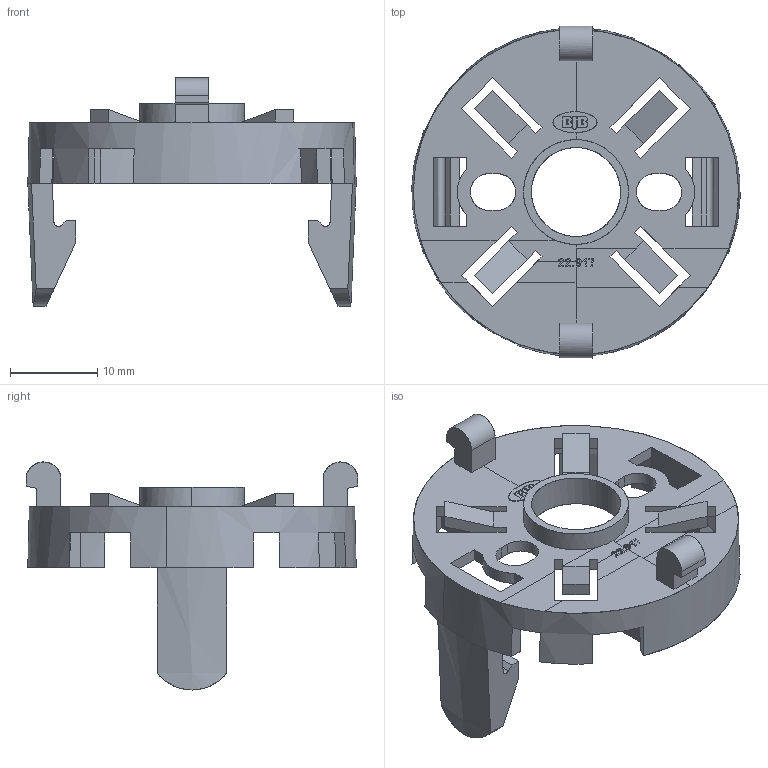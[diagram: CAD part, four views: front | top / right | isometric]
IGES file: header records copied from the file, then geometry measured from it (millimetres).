
Start section: Surface Model. Bezier boundary curves.
Global section: file name: 22_917_-301.igs; native system: TRANS-3D by CORETECH International; preprocessor: 2.1; date: 011014.164627; units: millimetre
Bounding box: 37.58 x 38 x 26.1 mm (x, y, z)
Surface area: 4352.1 mm2 (no closed solid volume)
Topology: 0 solids, 0 shells, 327 faces, 2012 edges, 2012 vertices
Faces by surface type: bspline 327
